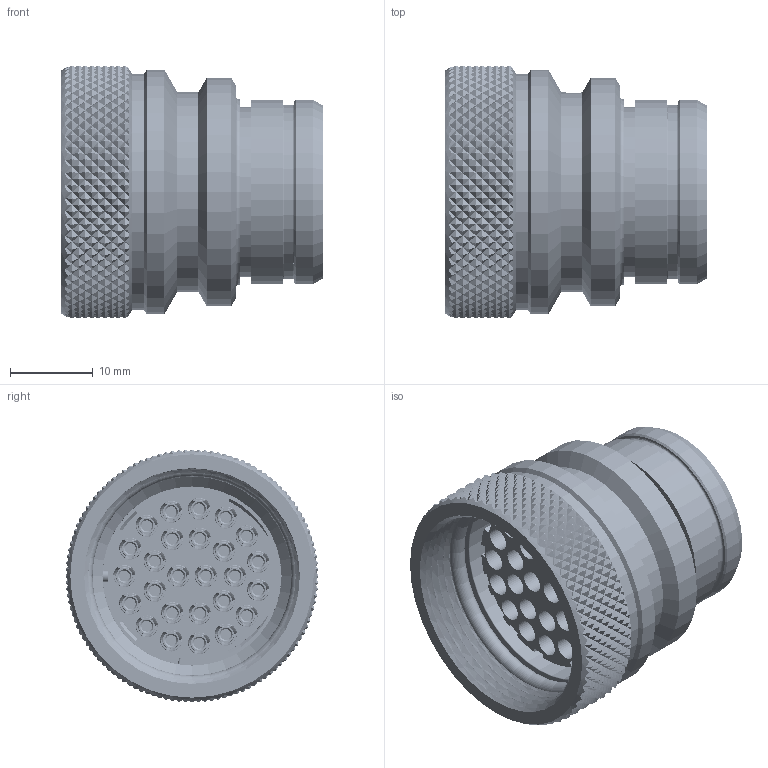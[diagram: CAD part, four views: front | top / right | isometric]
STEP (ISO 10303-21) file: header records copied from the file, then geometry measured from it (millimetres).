
FILE_DESCRIPTION((''),'2;1');
FILE_NAME('1332P426FS','2024-07-30T09:28:27',('paultorloting'),('NET AG system integration'),'CREO PARAMETRIC BY PTC INC, 2021404','CREO PARAMETRIC BY PTC INC, 2021404','');
FILE_SCHEMA(('AUTOMOTIVE_DESIGN { 1 0 10303 214 1 1 1 1 }'));
Products named in the file (1): 1332P426FS
Bounding box: 31.5 x 30.5 x 30.5 mm (x, y, z)
Volume: 10135.7 mm3; surface area: 17220.2 mm2
Topology: 1 solids, 1 shells, 7539 faces, 17686 edges, 10285 vertices
Faces by surface type: bspline 2826, plane 2096, cylinder 1944, torus 333, cone 236, extrusion 104
Entity records: 318110 total; most frequent: CARTESIAN_POINT 123504, ORIENTED_EDGE 35372, DIRECTION 21793, EDGE_CURVE 17686, VERTEX_POINT 10285, B_SPLINE_CURVE_WITH_KNOTS 8743, AXIS2_PLACEMENT_3D 8019, EDGE_LOOP 7883
